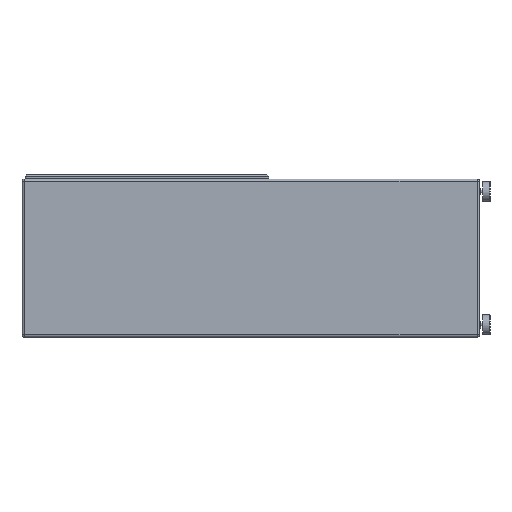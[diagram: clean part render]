
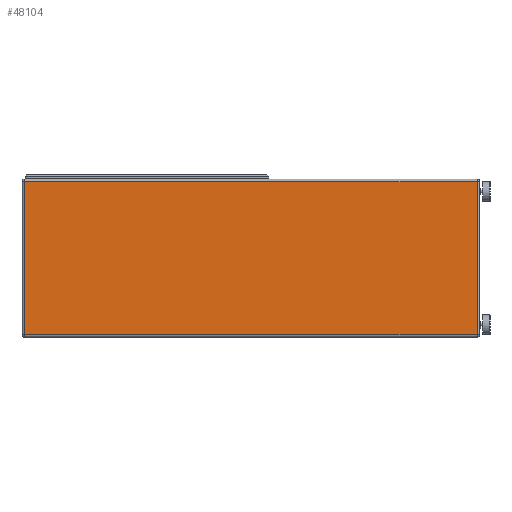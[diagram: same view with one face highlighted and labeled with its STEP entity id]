
A CAD part, left-side view. The second image highlights one B-rep face of the part: STEP entity #48104.
In plain terms, the highlighted planar face has unit normal (-1, 0, 0).
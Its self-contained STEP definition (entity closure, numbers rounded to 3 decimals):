
#4236=PLANE('',#51639);
#6571=FACE_OUTER_BOUND('',#9449,.T.);
#9449=EDGE_LOOP('',(#41297,#41298,#41299,#41300));
#13132=LINE('',#83968,#17350);
#13134=LINE('',#83971,#17352);
#13136=LINE('',#83977,#17354);
#13156=LINE('',#84038,#17374);
#17350=VECTOR('',#60872,1000.);
#17352=VECTOR('',#60876,10.);
#17354=VECTOR('',#60882,1000.);
#17374=VECTOR('',#60938,1000.);
#23549=VERTEX_POINT('',#83898);
#23551=VERTEX_POINT('',#83909);
#23566=VERTEX_POINT('',#83966);
#23567=VERTEX_POINT('',#83973);
#29710=EDGE_CURVE('',#23549,#23566,#13132,.T.);
#29712=EDGE_CURVE('',#23551,#23549,#13134,.T.);
#29715=EDGE_CURVE('',#23567,#23551,#13136,.T.);
#29745=EDGE_CURVE('',#23566,#23567,#13156,.T.);
#41297=ORIENTED_EDGE('',*,*,#29712,.T.);
#41298=ORIENTED_EDGE('',*,*,#29710,.T.);
#41299=ORIENTED_EDGE('',*,*,#29745,.T.);
#41300=ORIENTED_EDGE('',*,*,#29715,.T.);
#48104=ADVANCED_FACE('',(#6571),#4236,.T.);
#51639=AXIS2_PLACEMENT_3D('',#84037,#60936,#60937);
#60872=DIRECTION('',(0.,0.,1.));
#60876=DIRECTION('',(0.,-1.,0.));
#60882=DIRECTION('',(0.,0.,-1.));
#60936=DIRECTION('center_axis',(-1.,0.,0.));
#60937=DIRECTION('ref_axis',(0.,0.,1.));
#60938=DIRECTION('',(0.,1.,0.));
#83898=CARTESIAN_POINT('',(-265.,-544.,-184.));
#83909=CARTESIAN_POINT('',(-265.,544.,-184.));
#83966=CARTESIAN_POINT('',(-265.,-544.,184.));
#83968=CARTESIAN_POINT('',(-265.,-544.,-190.));
#83971=CARTESIAN_POINT('',(-265.,-538.,-184.));
#83973=CARTESIAN_POINT('',(-265.,544.,184.));
#83977=CARTESIAN_POINT('',(-265.,544.,-190.));
#84037=CARTESIAN_POINT('Origin',(-265.,0.,0.));
#84038=CARTESIAN_POINT('',(-265.,-532.,184.));
